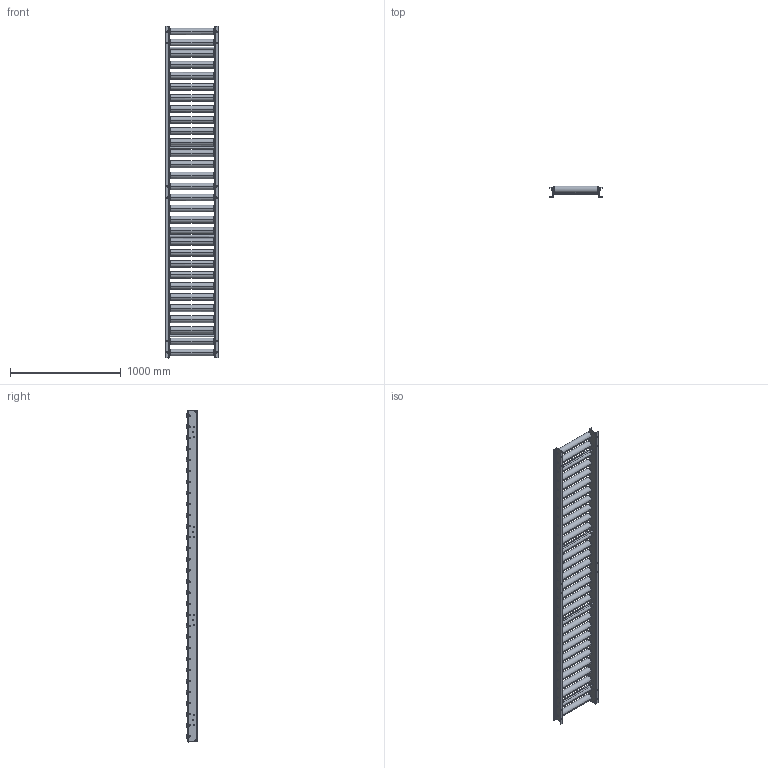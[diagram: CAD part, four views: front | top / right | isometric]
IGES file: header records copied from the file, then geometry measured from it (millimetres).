
Start section: 3D InterOp IGES (Version 21 0 2), Spatial Corp. Copyright (c) 1999-2007.
Global section: file name: R-6023P-01.igs; native system: Spatial Corp.; preprocessor: 3D InterOp GENERIC/IGES 3.0; author: Noname; organization: Noname; date: 20121028.144716; units: millimetre
Bounding box: 475 x 101.75 x 3000 mm (x, y, z)
Surface area: 4309881.2 mm2 (no closed solid volume)
Topology: 0 solids, 0 shells, 1492 faces, 9608 edges, 9592 vertices
Faces by surface type: bspline 1492
